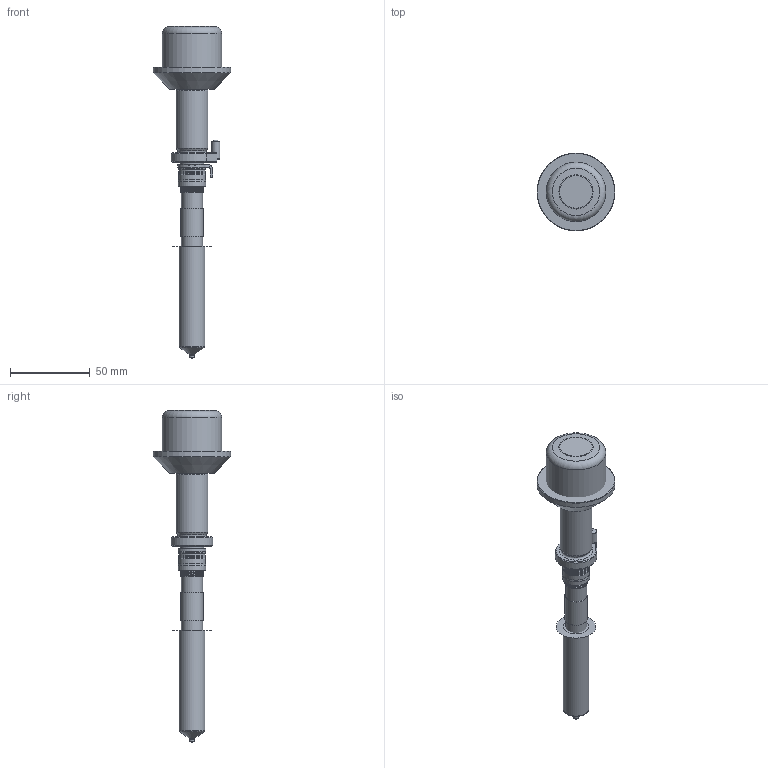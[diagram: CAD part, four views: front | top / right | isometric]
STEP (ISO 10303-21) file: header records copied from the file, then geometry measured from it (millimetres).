
FILE_DESCRIPTION(/* description */ (''),/* implementation_level */ '2;1');
FILE_NAME(/* name */ 'UH350 VG.stp',/* time_stamp */ '2021-12-24T15:13:47+08:00',/* author */ (''),/* organization */ (''),/* preprocessor_version */ 'ST-DEVELOPER v16',/* originating_system */ 'SIEMENS PLM Software NX 11.0',/* authorisation */ '');
FILE_SCHEMA (('AUTOMOTIVE_DESIGN { 1 0 10303 214 3 1 1 1 }'));
Length unit declared in the file: millimetre
Products named in the file (17): 3D_EXPORT_3D_ASSY_11315088_2_id91_x_t; 3D_EXPORT_3D_ASSY_11315088_2_id82_x_t; 3D_EXPORT_3D_ASSY_11315088_2_id77_x_t; 3D_EXPORT_3D_ASSY_11315088_2_id72_x_t; 3D_EXPORT_3D_ASSY_11315088_2_id67_x_t; 3D_EXPORT_3D_ASSY_11315088_2_id62_x_t; 3D_EXPORT_3D_ASSY_11315088_2_id57_x_t; 3D_EXPORT_3D_ASSY_11315088_2_id52_x_t; 3D_EXPORT_3D_ASSY_11315088_2_id47_x_t; 3D_EXPORT_3D_ASSY_11315088_2_id42_x_t; 3D_EXPORT_3D_ASSY_11315088_2_id31_x_t; 3D_EXPORT_3D_ASSY_11315088_2_id26_x_t; 3D_EXPORT_3D_ASSY_11315088_2_id21_x_t; 3D_EXPORT_3D_ASSY_11315088_2_id16_x_t; 3D_EXPORT_3D_ASSY_11315088_2_id11_x_t; 3D_EXPORT_3D_ASSY_11315088_2_id6_x_t; 3D_EXPORT_3D_ASSY_11315088_2_x_t
Assembly tree (22 placements, depth 2):
  3D_EXPORT_3D_ASSY_11315088_2_x_t
    3D_EXPORT_3D_ASSY_11315088_2_id6_x_t
    3D_EXPORT_3D_ASSY_11315088_2_id11_x_t
    3D_EXPORT_3D_ASSY_11315088_2_id16_x_t
    3D_EXPORT_3D_ASSY_11315088_2_id21_x_t
    3D_EXPORT_3D_ASSY_11315088_2_id26_x_t
    3D_EXPORT_3D_ASSY_11315088_2_id31_x_t  x4
    3D_EXPORT_3D_ASSY_11315088_2_id42_x_t
    3D_EXPORT_3D_ASSY_11315088_2_id47_x_t
    3D_EXPORT_3D_ASSY_11315088_2_id52_x_t
    3D_EXPORT_3D_ASSY_11315088_2_id57_x_t
    3D_EXPORT_3D_ASSY_11315088_2_id62_x_t
    3D_EXPORT_3D_ASSY_11315088_2_id67_x_t
    3D_EXPORT_3D_ASSY_11315088_2_id72_x_t
    3D_EXPORT_3D_ASSY_11315088_2_id77_x_t
    3D_EXPORT_3D_ASSY_11315088_2_id82_x_t  x3
    3D_EXPORT_3D_ASSY_11315088_2_id91_x_t  x2
Bounding box: 49 x 49 x 208.64 mm (x, y, z)
Volume: 109502.5 mm3; surface area: 36675 mm2
Topology: 22 solids, 22 shells, 578 faces, 1550 edges, 995 vertices
Faces by surface type: cylinder 320, plane 140, torus 63, cone 53, sphere 2
Full cylindrical faces by diameter (mm): 1 x2, 1.7 x2, 2 x1, 2.53 x1, 3 x1, 3.005 x1, 4.027 x3, 5 x2, 5.15 x1, 6.89 x1, 6.895 x1, 7.2 x1, 7.4 x1, 8 x1, 9.4 x1, 9.95 x1, 9.97 x3, 11.06 x3, 11.5 x1, 12.3 x1, 12.494 x1, 12.7 x1, 13.3 x2, 14 x3, 14.05 x1, 15 x1, 16 x1, 16.34 x1, 16.9 x4, 17 x1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
Entity records: 14718 total; most frequent: CARTESIAN_POINT 2761, DIRECTION 1801, ORIENTED_EDGE 1650, EDGE_CURVE 825, AXIS2_PLACEMENT_3D 751, VERTEX_POINT 577, EDGE_LOOP 565, PRESENTATION_STYLE_ASSIGNMENT 417
